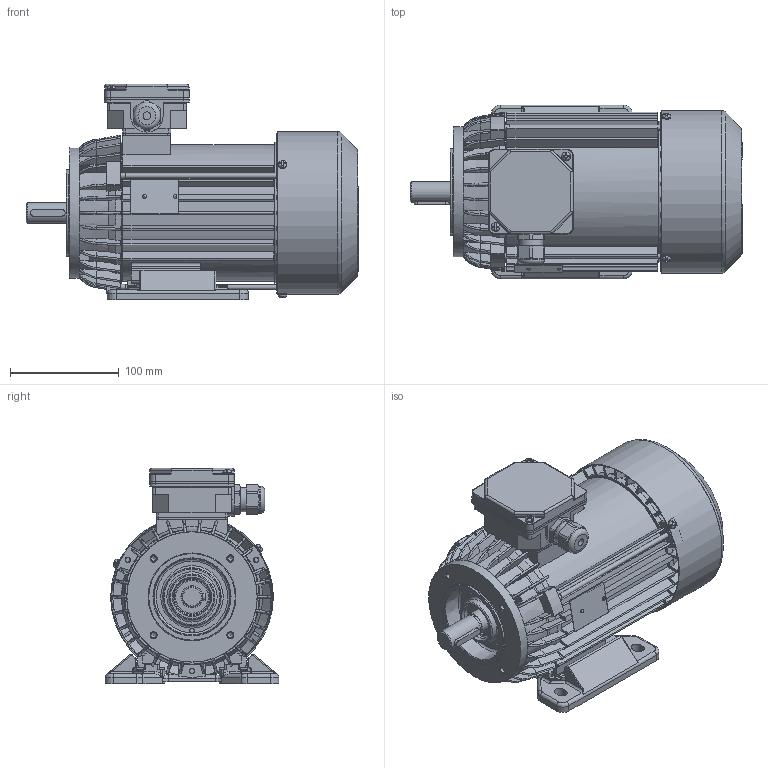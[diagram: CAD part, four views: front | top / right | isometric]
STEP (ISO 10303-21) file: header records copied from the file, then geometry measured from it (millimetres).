
FILE_DESCRIPTION( ( 'Unknown' ), '1' );
FILE_NAME( 'G:/Poczta Tk-1/STP/w.m.80/Sh80/SLh80x-.C2.stp', 'Unknown', ( 'K. Szlosek' ), ( 'BESEL S.A.' ), 'PSStep 17.0.49', 'Unknown', ' ' );
FILE_SCHEMA( ( 'AUTOMOTIVE_DESIGN { 1 0 10303 214 1 1 1 1 }' ) );
Length unit declared in the file: millimetre
Products named in the file (30): skrznka zaciskowa trójfazowa ; K4-2820 Uszczelka nr 2 Sh71,80; Dławnica M20x1,5; K2-0859 Podstawa skrzynki 6-cio zaciskowej; K2-0860 Pokrywka skrzynki zaciskowej; Assem1; K1-1257 Kadłub S(E,M)h80-C i D; K2-2027 Tarcza łożyskowa P S(E,M)h80-.A,C; Wkręt samogwintujący M4x16; Wkręt samogwintujący M4x10; K3-7039 wał standard Sh80-C; K4-4489 Osłona przewietrznika Sh80,90-A,C; K4-2320 Uszczelka nr 1 Sh71,80; Wpust A6x6x32; K2-1715 Przewietrznik; Nitokołek A 2x6; Łożysko 6204; Śruba ściągająca E_M5x168; Tabliczka znamionowa 32x44; K1-1261 Tarcza kołnierzowa B14_2 w.m. 80; K1-0437 Łapa Sh80-.. 
Assembly tree (45 placements, depth 3):
  Assem1
    K1-1257 Kadłub S(E,M)h80-C i D
    K2-2027 Tarcza łożyskowa P S(E,M)h80-.A,C
    Wkręt samogwintujący M4x16  x2
    Wkręt samogwintujący M4x10  x3
    K3-7039 wał standard Sh80-C
    K4-4489 Osłona przewietrznika Sh80,90-A,C
    K4-2320 Uszczelka nr 1 Sh71,80
    Wpust A6x6x32
    K2-1715 Przewietrznik
    Nitokołek A 2x6  x2
    Łożysko 6204  x2
    Łożysko 6204  x2
    Łożysko 6204  x2
    Łożysko 6204  x2
    Łożysko 6204  x2
    Łożysko 6204  x2
    Łożysko 6204  x2
    Łożysko 6204  x2
    Łożysko 6204  x2
    Łożysko 6204  x2
    Śruba ściągająca E_M5x168  x3
    Tabliczka znamionowa 32x44
    K1-1261 Tarcza kołnierzowa B14_2 w.m. 80
    K1-0437 Łapa Sh80-.. 
    skrznka zaciskowa trójfazowa 
      K4-2820 Uszczelka nr 2 Sh71,80
      Dławnica M20x1,5
      K2-0859 Podstawa skrzynki 6-cio zaciskowej
      K2-0860 Pokrywka skrzynki zaciskowej
Bounding box: 305.8 x 160 x 198.5 mm (x, y, z)
Volume: 1060451.4 mm3; surface area: 621540.6 mm2
Topology: 44 solids, 60 shells, 2821 faces, 7957 edges, 5093 vertices
Faces by surface type: plane 1335, cylinder 892, bspline 297, torus 135, cone 128, sphere 34
Full cylindrical faces by diameter (mm): 2 x2, 2.4 x2, 3 x1, 3.7 x11, 4 x6, 4.2 x3, 4.5 x1, 4.6 x3, 4.8 x4, 5 x11, 5.5 x3, 6.5 x4, 7 x1, 8 x9, 18.376 x1, 18.38 x1, 18.6 x1, 19 x1, 19.3 x1, 19.5 x2, 19.9 x1, 20 x5, 20.3 x2, 20.4 x4, 22.3 x1, 25 x1, 25.5 x1, 25.65 x1, 26 x3, 26.05 x1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
Entity records: 133762 total; most frequent: CARTESIAN_POINT 47375, ORIENTED_EDGE 14152, DIRECTION 13154, EDGE_CURVE 7076, AXIS2_PLACEMENT_3D 4798, VERTEX_POINT 4719, LINE 3558, VECTOR 3558
